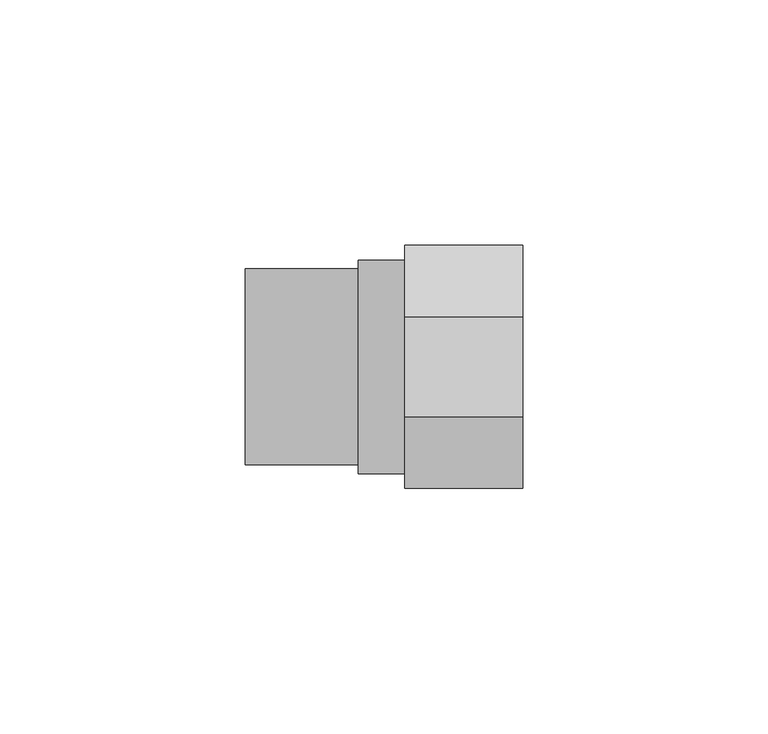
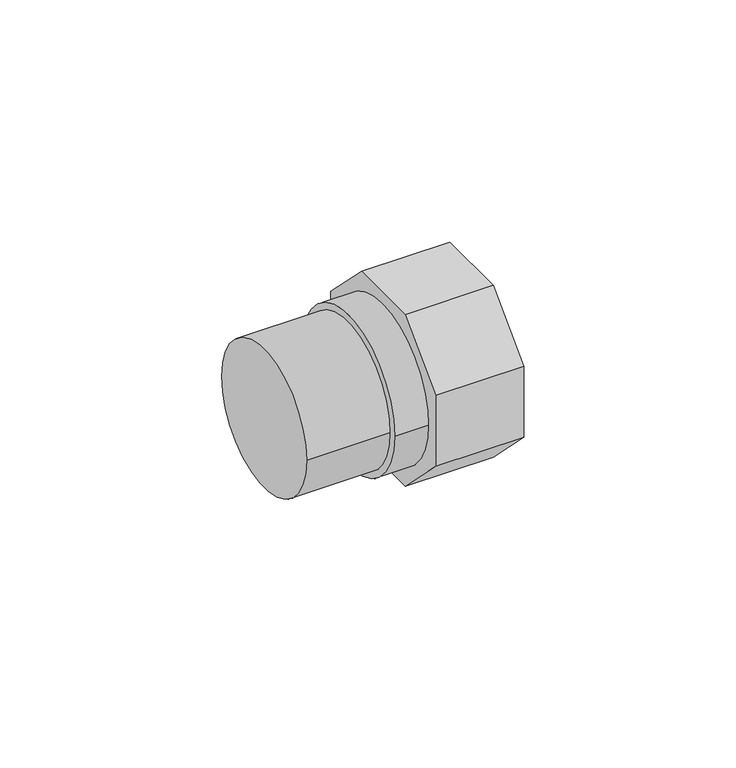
"""IFC4 building model written with IfcOpenShell, lengths in millimetres: pipe fitting geometry, PipeFitting_GirpiHTA_CPVC_ThreadedAdaptors_ForExpansionJoints : PipeFitting_GirpiHTA_CPVC_ThreadedAdaptors_ForExpansionJoints."""

from ifc_helpers import new_model, si_unit, point, frame, origin, origin_2d, place, context, project, spatial, polyline, circle_curve, trimmed, segment, composite_curve, outline, extrude, source, transform, mapped, element, save


def pipe_fitting_ad0d2320(model_context):
    return source(origin(), model_context, "Body", "SweptSolid", [
        extrude(outline(polyline([(-10.2517857, 24.75), (10.2517857, 24.75), (24.75, 10.2517857), (24.75, -10.2517857), (10.2517857, -24.75), (-10.2517857, -24.75), (-24.75, -10.2517857), (-24.75, 10.2517857), (-10.2517857, 24.75)])), frame((21.0, 0.0, 0.0), z_axis=(1.0, 0.0, 0.0), x_axis=(0.0, 1.0, 0.0)), (0.0, 0.0, 1.0), 24.0),
        extrude(outline(composite_curve([segment(trimmed(circle_curve(origin_2d(), 21.75), [point((21.75, 0.0))], [point((-21.75, 0.0))], False, "CARTESIAN"), True, "CONTINUOUS"), segment(trimmed(circle_curve(origin_2d(), 21.75), [point((-21.75, 0.0))], [point((21.75, 0.0))], False, "CARTESIAN"), True, "CONTINUOUS")], self_intersect=False)), frame((11.5, 0.0, 0.0), z_axis=(1.0, 0.0, 0.0), x_axis=(0.0, 1.0, 0.0)), (0.0, 0.0, 1.0), 9.5),
        extrude(outline(composite_curve([segment(trimmed(circle_curve(origin_2d(), 20.0), [point((20.0, 0.0))], [point((-20.0, 0.0))], False, "CARTESIAN"), True, "CONTINUOUS"), segment(trimmed(circle_curve(origin_2d(), 20.0), [point((-20.0, 0.0))], [point((20.0, 0.0))], False, "CARTESIAN"), True, "CONTINUOUS")], self_intersect=False)), frame((-11.5, 0.0, 0.0), z_axis=(1.0, 0.0, 0.0), x_axis=(0.0, 1.0, 0.0)), (0.0, 0.0, 1.0), 23.0),
    ])


if __name__ == "__main__":
    model = new_model("IFC4")
    model_context = context("Model", 3, world=origin())
    ifc_project = project(units=[si_unit("LENGTHUNIT", "METRE", prefix="MILLI")], contexts=[model_context])
    site = spatial("IfcSite", under=ifc_project)
    building = spatial("IfcBuilding", under=site)
    placement = place(None, origin())
    pipe_fitting_shape = pipe_fitting_ad0d2320(model_context)
    element("IfcPipeFitting", 1, ObjectType="PipeFitting_GirpiHTA_CPVC_ThreadedAdaptors_ForExpansionJoints : PipeFitting_GirpiHTA_CPVC_ThreadedAdaptors_ForExpansionJoints", at=placement, inside=building, context=model_context, shape_type="MappedRepresentation", body=[
        mapped(pipe_fitting_shape, transform((0.0, 0.0, 0.0), x_axis=(1.0, 0.0, 0.0), y_axis=(0.0, 1.0, 0.0), z_axis=(0.0, 0.0, 1.0))),
    ])
    save(model, "model.ifc")
